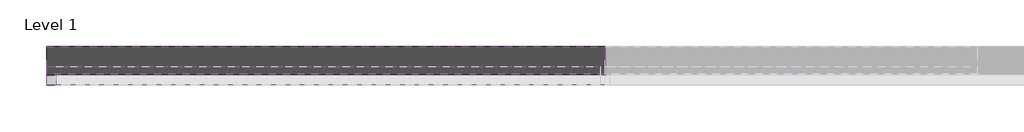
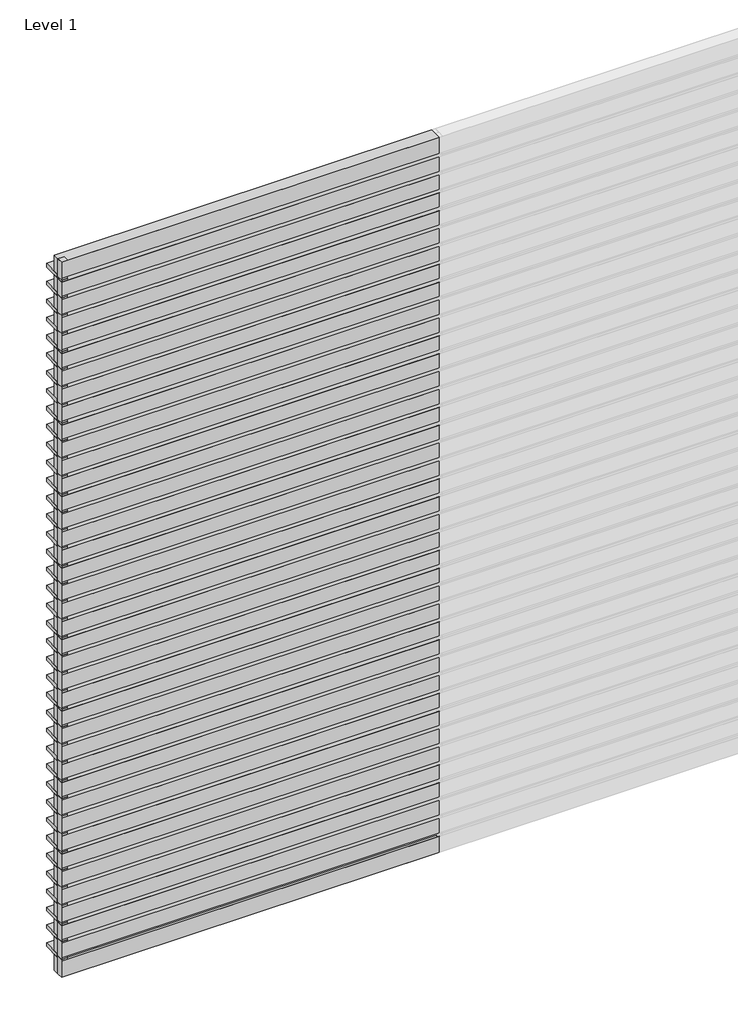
# One storey, part 1 of 3: 79 members, 41 plates.
"""IFC4 building model written with IfcOpenShell, lengths in millimetres."""

from ifc_helpers import new_model, si_unit, origin, place, context, project, spatial, transform, mapped, element, save
from components import rectangular_mullion_4e9be6f4, rectangular_mullion_6265e8b1, empty_system_panel_empty_50652f15, empty_system_panel_empty_6fa24678, empty_system_panel_empty_149e9d60

model = new_model("IFC4")

# Units and contexts
model_context = context("Model", 3, world=origin())
ifc_project = project(units=[si_unit("LENGTHUNIT", "METRE", prefix="MILLI")], contexts=[model_context])

# Site, building, storey
site = spatial("IfcSite", under=ifc_project)
building = spatial("IfcBuilding", under=site)
storey = spatial("IfcBuildingStorey", under=building, Name="Level 1", Elevation=0.0)

# Members
placement = place(None, origin())
rectangular_mullion_shape = rectangular_mullion_4e9be6f4(model_context)
element("IfcMember", 1, ObjectType="Rectangular Mullion : RSen_21_CWM_blade - cubic 150 - 0°_gen_duco projects", at=placement, inside=storey, context=model_context, shape_type="MappedRepresentation", body=[
    mapped(rectangular_mullion_shape, transform((0.0, 3000.0, 150.0), x_axis=(0.0, 0.0, 1.0), y_axis=(0.0, 1.0, 0.0), z_axis=(-1.0, 0.0, 0.0))),
])
element("IfcMember", 2, ObjectType="Rectangular Mullion : RSen_21_CWM_blade - cubic 150 - 0°_gen_duco projects", at=placement, inside=storey, context=model_context, shape_type="MappedRepresentation", body=[
    mapped(rectangular_mullion_shape, transform((0.0, 3000.0, 300.0), x_axis=(0.0, 0.0, 1.0), y_axis=(0.0, 1.0, 0.0), z_axis=(-1.0, 0.0, 0.0))),
])
element("IfcMember", 3, ObjectType="Rectangular Mullion : RSen_21_CWM_blade - cubic 150 - 0°_gen_duco projects", at=placement, inside=storey, context=model_context, shape_type="MappedRepresentation", body=[
    mapped(rectangular_mullion_shape, transform((0.0, 3000.0, 450.0), x_axis=(0.0, 0.0, 1.0), y_axis=(0.0, 1.0, 0.0), z_axis=(-1.0, 0.0, 0.0))),
])
element("IfcMember", 4, ObjectType="Rectangular Mullion : RSen_21_CWM_blade - cubic 150 - 0°_gen_duco projects", at=placement, inside=storey, context=model_context, shape_type="MappedRepresentation", body=[
    mapped(rectangular_mullion_shape, transform((0.0, 3000.0, 600.0), x_axis=(0.0, 0.0, 1.0), y_axis=(0.0, 1.0, 0.0), z_axis=(-1.0, 0.0, 0.0))),
])
element("IfcMember", 5, ObjectType="Rectangular Mullion : RSen_21_CWM_blade - cubic 150 - 0°_gen_duco projects", at=placement, inside=storey, context=model_context, shape_type="MappedRepresentation", body=[
    mapped(rectangular_mullion_shape, transform((0.0, 3000.0, 750.0), x_axis=(0.0, 0.0, 1.0), y_axis=(0.0, 1.0, 0.0), z_axis=(-1.0, 0.0, 0.0))),
])
element("IfcMember", 6, ObjectType="Rectangular Mullion : RSen_21_CWM_blade - cubic 150 - 0°_gen_duco projects", at=placement, inside=storey, context=model_context, shape_type="MappedRepresentation", body=[
    mapped(rectangular_mullion_shape, transform((0.0, 3000.0, 900.0), x_axis=(0.0, 0.0, 1.0), y_axis=(0.0, 1.0, 0.0), z_axis=(-1.0, 0.0, 0.0))),
])
element("IfcMember", 7, ObjectType="Rectangular Mullion : RSen_21_CWM_blade - cubic 150 - 0°_gen_duco projects", at=placement, inside=storey, context=model_context, shape_type="MappedRepresentation", body=[
    mapped(rectangular_mullion_shape, transform((0.0, 3000.0, 1050.0), x_axis=(0.0, 0.0, 1.0), y_axis=(0.0, 1.0, 0.0), z_axis=(-1.0, 0.0, 0.0))),
])
element("IfcMember", 8, ObjectType="Rectangular Mullion : RSen_21_CWM_blade - cubic 150 - 0°_gen_duco projects", at=placement, inside=storey, context=model_context, shape_type="MappedRepresentation", body=[
    mapped(rectangular_mullion_shape, transform((0.0, 3000.0, 1200.0), x_axis=(0.0, 0.0, 1.0), y_axis=(0.0, 1.0, 0.0), z_axis=(-1.0, 0.0, 0.0))),
])
element("IfcMember", 9, ObjectType="Rectangular Mullion : RSen_21_CWM_blade - cubic 150 - 0°_gen_duco projects", at=placement, inside=storey, context=model_context, shape_type="MappedRepresentation", body=[
    mapped(rectangular_mullion_shape, transform((0.0, 3000.0, 1350.0), x_axis=(0.0, 0.0, 1.0), y_axis=(0.0, 1.0, 0.0), z_axis=(-1.0, 0.0, 0.0))),
])
element("IfcMember", 10, ObjectType="Rectangular Mullion : RSen_21_CWM_blade - cubic 150 - 0°_gen_duco projects", at=placement, inside=storey, context=model_context, shape_type="MappedRepresentation", body=[
    mapped(rectangular_mullion_shape, transform((0.0, 3000.0, 1500.0), x_axis=(0.0, 0.0, 1.0), y_axis=(0.0, 1.0, 0.0), z_axis=(-1.0, 0.0, 0.0))),
])
element("IfcMember", 11, ObjectType="Rectangular Mullion : RSen_21_CWM_blade - cubic 150 - 0°_gen_duco projects", at=placement, inside=storey, context=model_context, shape_type="MappedRepresentation", body=[
    mapped(rectangular_mullion_shape, transform((0.0, 3000.0, 1650.0), x_axis=(0.0, 0.0, 1.0), y_axis=(0.0, 1.0, 0.0), z_axis=(-1.0, 0.0, 0.0))),
])
element("IfcMember", 12, ObjectType="Rectangular Mullion : RSen_21_CWM_blade - cubic 150 - 0°_gen_duco projects", at=placement, inside=storey, context=model_context, shape_type="MappedRepresentation", body=[
    mapped(rectangular_mullion_shape, transform((0.0, 3000.0, 1800.0), x_axis=(0.0, 0.0, 1.0), y_axis=(0.0, 1.0, 0.0), z_axis=(-1.0, 0.0, 0.0))),
])
element("IfcMember", 13, ObjectType="Rectangular Mullion : RSen_21_CWM_blade - cubic 150 - 0°_gen_duco projects", at=placement, inside=storey, context=model_context, shape_type="MappedRepresentation", body=[
    mapped(rectangular_mullion_shape, transform((0.0, 3000.0, 1950.0), x_axis=(0.0, 0.0, 1.0), y_axis=(0.0, 1.0, 0.0), z_axis=(-1.0, 0.0, 0.0))),
])
element("IfcMember", 14, ObjectType="Rectangular Mullion : RSen_21_CWM_blade - cubic 150 - 0°_gen_duco projects", at=placement, inside=storey, context=model_context, shape_type="MappedRepresentation", body=[
    mapped(rectangular_mullion_shape, transform((0.0, 3000.0, 2100.0), x_axis=(0.0, 0.0, 1.0), y_axis=(0.0, 1.0, 0.0), z_axis=(-1.0, 0.0, 0.0))),
])
element("IfcMember", 15, ObjectType="Rectangular Mullion : RSen_21_CWM_blade - cubic 150 - 0°_gen_duco projects", at=placement, inside=storey, context=model_context, shape_type="MappedRepresentation", body=[
    mapped(rectangular_mullion_shape, transform((0.0, 3000.0, 2250.0), x_axis=(0.0, 0.0, 1.0), y_axis=(0.0, 1.0, 0.0), z_axis=(-1.0, 0.0, 0.0))),
])
element("IfcMember", 16, ObjectType="Rectangular Mullion : RSen_21_CWM_blade - cubic 150 - 0°_gen_duco projects", at=placement, inside=storey, context=model_context, shape_type="MappedRepresentation", body=[
    mapped(rectangular_mullion_shape, transform((0.0, 3000.0, 2400.0), x_axis=(0.0, 0.0, 1.0), y_axis=(0.0, 1.0, 0.0), z_axis=(-1.0, 0.0, 0.0))),
])
element("IfcMember", 17, ObjectType="Rectangular Mullion : RSen_21_CWM_blade - cubic 150 - 0°_gen_duco projects", at=placement, inside=storey, context=model_context, shape_type="MappedRepresentation", body=[
    mapped(rectangular_mullion_shape, transform((0.0, 3000.0, 2550.0), x_axis=(0.0, 0.0, 1.0), y_axis=(0.0, 1.0, 0.0), z_axis=(-1.0, 0.0, 0.0))),
])
element("IfcMember", 18, ObjectType="Rectangular Mullion : RSen_21_CWM_blade - cubic 150 - 0°_gen_duco projects", at=placement, inside=storey, context=model_context, shape_type="MappedRepresentation", body=[
    mapped(rectangular_mullion_shape, transform((0.0, 3000.0, 2700.0), x_axis=(0.0, 0.0, 1.0), y_axis=(0.0, 1.0, 0.0), z_axis=(-1.0, 0.0, 0.0))),
])
element("IfcMember", 19, ObjectType="Rectangular Mullion : RSen_21_CWM_blade - cubic 150 - 0°_gen_duco projects", at=placement, inside=storey, context=model_context, shape_type="MappedRepresentation", body=[
    mapped(rectangular_mullion_shape, transform((0.0, 3000.0, 2850.0), x_axis=(0.0, 0.0, 1.0), y_axis=(0.0, 1.0, 0.0), z_axis=(-1.0, 0.0, 0.0))),
])
element("IfcMember", 20, ObjectType="Rectangular Mullion : RSen_21_CWM_blade - cubic 150 - 0°_gen_duco projects", at=placement, inside=storey, context=model_context, shape_type="MappedRepresentation", body=[
    mapped(rectangular_mullion_shape, transform((0.0, 3000.0, 3000.0), x_axis=(0.0, 0.0, 1.0), y_axis=(0.0, 1.0, 0.0), z_axis=(-1.0, 0.0, 0.0))),
])
element("IfcMember", 21, ObjectType="Rectangular Mullion : RSen_21_CWM_blade - cubic 150 - 0°_gen_duco projects", at=placement, inside=storey, context=model_context, shape_type="MappedRepresentation", body=[
    mapped(rectangular_mullion_shape, transform((0.0, 3000.0, 3150.0), x_axis=(0.0, 0.0, 1.0), y_axis=(0.0, 1.0, 0.0), z_axis=(-1.0, 0.0, 0.0))),
])
element("IfcMember", 22, ObjectType="Rectangular Mullion : RSen_21_CWM_blade - cubic 150 - 0°_gen_duco projects", at=placement, inside=storey, context=model_context, shape_type="MappedRepresentation", body=[
    mapped(rectangular_mullion_shape, transform((0.0, 3000.0, 3300.0), x_axis=(0.0, 0.0, 1.0), y_axis=(0.0, 1.0, 0.0), z_axis=(-1.0, 0.0, 0.0))),
])
element("IfcMember", 23, ObjectType="Rectangular Mullion : RSen_21_CWM_blade - cubic 150 - 0°_gen_duco projects", at=placement, inside=storey, context=model_context, shape_type="MappedRepresentation", body=[
    mapped(rectangular_mullion_shape, transform((0.0, 3000.0, 3450.0), x_axis=(0.0, 0.0, 1.0), y_axis=(0.0, 1.0, 0.0), z_axis=(-1.0, 0.0, 0.0))),
])
element("IfcMember", 24, ObjectType="Rectangular Mullion : RSen_21_CWM_blade - cubic 150 - 0°_gen_duco projects", at=placement, inside=storey, context=model_context, shape_type="MappedRepresentation", body=[
    mapped(rectangular_mullion_shape, transform((0.0, 3000.0, 3600.0), x_axis=(0.0, 0.0, 1.0), y_axis=(0.0, 1.0, 0.0), z_axis=(-1.0, 0.0, 0.0))),
])
element("IfcMember", 25, ObjectType="Rectangular Mullion : RSen_21_CWM_blade - cubic 150 - 0°_gen_duco projects", at=placement, inside=storey, context=model_context, shape_type="MappedRepresentation", body=[
    mapped(rectangular_mullion_shape, transform((0.0, 3000.0, 3750.0), x_axis=(0.0, 0.0, 1.0), y_axis=(0.0, 1.0, 0.0), z_axis=(-1.0, 0.0, 0.0))),
])
element("IfcMember", 26, ObjectType="Rectangular Mullion : RSen_21_CWM_blade - cubic 150 - 0°_gen_duco projects", at=placement, inside=storey, context=model_context, shape_type="MappedRepresentation", body=[
    mapped(rectangular_mullion_shape, transform((0.0, 3000.0, 3900.0), x_axis=(0.0, 0.0, 1.0), y_axis=(0.0, 1.0, 0.0), z_axis=(-1.0, 0.0, 0.0))),
])
element("IfcMember", 27, ObjectType="Rectangular Mullion : RSen_21_CWM_blade - cubic 150 - 0°_gen_duco projects", at=placement, inside=storey, context=model_context, shape_type="MappedRepresentation", body=[
    mapped(rectangular_mullion_shape, transform((0.0, 3000.0, 4050.0), x_axis=(0.0, 0.0, 1.0), y_axis=(0.0, 1.0, 0.0), z_axis=(-1.0, 0.0, 0.0))),
])
element("IfcMember", 28, ObjectType="Rectangular Mullion : RSen_21_CWM_blade - cubic 150 - 0°_gen_duco projects", at=placement, inside=storey, context=model_context, shape_type="MappedRepresentation", body=[
    mapped(rectangular_mullion_shape, transform((0.0, 3000.0, 4200.0), x_axis=(0.0, 0.0, 1.0), y_axis=(0.0, 1.0, 0.0), z_axis=(-1.0, 0.0, 0.0))),
])
element("IfcMember", 29, ObjectType="Rectangular Mullion : RSen_21_CWM_blade - cubic 150 - 0°_gen_duco projects", at=placement, inside=storey, context=model_context, shape_type="MappedRepresentation", body=[
    mapped(rectangular_mullion_shape, transform((0.0, 3000.0, 4350.0), x_axis=(0.0, 0.0, 1.0), y_axis=(0.0, 1.0, 0.0), z_axis=(-1.0, 0.0, 0.0))),
])
element("IfcMember", 30, ObjectType="Rectangular Mullion : RSen_21_CWM_blade - cubic 150 - 0°_gen_duco projects", at=placement, inside=storey, context=model_context, shape_type="MappedRepresentation", body=[
    mapped(rectangular_mullion_shape, transform((0.0, 3000.0, 4500.0), x_axis=(0.0, 0.0, 1.0), y_axis=(0.0, 1.0, 0.0), z_axis=(-1.0, 0.0, 0.0))),
])
element("IfcMember", 31, ObjectType="Rectangular Mullion : RSen_21_CWM_blade - cubic 150 - 0°_gen_duco projects", at=placement, inside=storey, context=model_context, shape_type="MappedRepresentation", body=[
    mapped(rectangular_mullion_shape, transform((0.0, 3000.0, 4650.0), x_axis=(0.0, 0.0, 1.0), y_axis=(0.0, 1.0, 0.0), z_axis=(-1.0, 0.0, 0.0))),
])
element("IfcMember", 32, ObjectType="Rectangular Mullion : RSen_21_CWM_blade - cubic 150 - 0°_gen_duco projects", at=placement, inside=storey, context=model_context, shape_type="MappedRepresentation", body=[
    mapped(rectangular_mullion_shape, transform((0.0, 3000.0, 4800.0), x_axis=(0.0, 0.0, 1.0), y_axis=(0.0, 1.0, 0.0), z_axis=(-1.0, 0.0, 0.0))),
])
element("IfcMember", 33, ObjectType="Rectangular Mullion : RSen_21_CWM_blade - cubic 150 - 0°_gen_duco projects", at=placement, inside=storey, context=model_context, shape_type="MappedRepresentation", body=[
    mapped(rectangular_mullion_shape, transform((0.0, 3000.0, 4950.0), x_axis=(0.0, 0.0, 1.0), y_axis=(0.0, 1.0, 0.0), z_axis=(-1.0, 0.0, 0.0))),
])
element("IfcMember", 34, ObjectType="Rectangular Mullion : RSen_21_CWM_blade - cubic 150 - 0°_gen_duco projects", at=placement, inside=storey, context=model_context, shape_type="MappedRepresentation", body=[
    mapped(rectangular_mullion_shape, transform((0.0, 3000.0, 5100.0), x_axis=(0.0, 0.0, 1.0), y_axis=(0.0, 1.0, 0.0), z_axis=(-1.0, 0.0, 0.0))),
])
element("IfcMember", 35, ObjectType="Rectangular Mullion : RSen_21_CWM_blade - cubic 150 - 0°_gen_duco projects", at=placement, inside=storey, context=model_context, shape_type="MappedRepresentation", body=[
    mapped(rectangular_mullion_shape, transform((0.0, 3000.0, 5250.0), x_axis=(0.0, 0.0, 1.0), y_axis=(0.0, 1.0, 0.0), z_axis=(-1.0, 0.0, 0.0))),
])
element("IfcMember", 36, ObjectType="Rectangular Mullion : RSen_21_CWM_blade - cubic 150 - 0°_gen_duco projects", at=placement, inside=storey, context=model_context, shape_type="MappedRepresentation", body=[
    mapped(rectangular_mullion_shape, transform((0.0, 3000.0, 5400.0), x_axis=(0.0, 0.0, 1.0), y_axis=(0.0, 1.0, 0.0), z_axis=(-1.0, 0.0, 0.0))),
])
element("IfcMember", 37, ObjectType="Rectangular Mullion : RSen_21_CWM_blade - cubic 150 - 0°_gen_duco projects", at=placement, inside=storey, context=model_context, shape_type="MappedRepresentation", body=[
    mapped(rectangular_mullion_shape, transform((0.0, 3000.0, 5550.0), x_axis=(0.0, 0.0, 1.0), y_axis=(0.0, 1.0, 0.0), z_axis=(-1.0, 0.0, 0.0))),
])
element("IfcMember", 38, ObjectType="Rectangular Mullion : RSen_21_CWM_blade - cubic 150 - 0°_gen_duco projects", at=placement, inside=storey, context=model_context, shape_type="MappedRepresentation", body=[
    mapped(rectangular_mullion_shape, transform((0.0, 3000.0, 5700.0), x_axis=(0.0, 0.0, 1.0), y_axis=(0.0, 1.0, 0.0), z_axis=(-1.0, 0.0, 0.0))),
])
element("IfcMember", 39, ObjectType="Rectangular Mullion : RSen_21_CWM_blade - cubic 150 - 0°_gen_duco projects", at=placement, inside=storey, context=model_context, shape_type="MappedRepresentation", body=[
    mapped(rectangular_mullion_shape, transform((0.0, 3000.0, 5850.0), x_axis=(0.0, 0.0, 1.0), y_axis=(0.0, 1.0, 0.0), z_axis=(-1.0, 0.0, 0.0))),
])
rectangular_mullion_2_shape = rectangular_mullion_6265e8b1(model_context)
element("IfcMember", 40, ObjectType="Rectangular Mullion : RSen_21_CWM_support profile 50x50 - left_gen_duco projects", at=placement, inside=storey, context=model_context, shape_type="MappedRepresentation", body=[
    mapped(rectangular_mullion_2_shape, transform((0.0, 3000.0, 0.0), x_axis=(-1.0, 0.0, 0.0), y_axis=(0.0, 1.0, 0.0), z_axis=(0.0, 0.0, -1.0))),
])
element("IfcMember", 41, ObjectType="Rectangular Mullion : RSen_21_CWM_support profile 50x50 - left_gen_duco projects", at=placement, inside=storey, context=model_context, shape_type="MappedRepresentation", body=[
    mapped(rectangular_mullion_2_shape, transform((0.0, 3000.0, 150.0), x_axis=(-1.0, 0.0, 0.0), y_axis=(0.0, 1.0, 0.0), z_axis=(0.0, 0.0, -1.0))),
])
element("IfcMember", 42, ObjectType="Rectangular Mullion : RSen_21_CWM_support profile 50x50 - left_gen_duco projects", at=placement, inside=storey, context=model_context, shape_type="MappedRepresentation", body=[
    mapped(rectangular_mullion_2_shape, transform((0.0, 3000.0, 300.0), x_axis=(-1.0, 0.0, 0.0), y_axis=(0.0, 1.0, 0.0), z_axis=(0.0, 0.0, -1.0))),
])
element("IfcMember", 43, ObjectType="Rectangular Mullion : RSen_21_CWM_support profile 50x50 - left_gen_duco projects", at=placement, inside=storey, context=model_context, shape_type="MappedRepresentation", body=[
    mapped(rectangular_mullion_2_shape, transform((0.0, 3000.0, 450.0), x_axis=(-1.0, 0.0, 0.0), y_axis=(0.0, 1.0, 0.0), z_axis=(0.0, 0.0, -1.0))),
])
element("IfcMember", 44, ObjectType="Rectangular Mullion : RSen_21_CWM_support profile 50x50 - left_gen_duco projects", at=placement, inside=storey, context=model_context, shape_type="MappedRepresentation", body=[
    mapped(rectangular_mullion_2_shape, transform((0.0, 3000.0, 600.0), x_axis=(-1.0, 0.0, 0.0), y_axis=(0.0, 1.0, 0.0), z_axis=(0.0, 0.0, -1.0))),
])
element("IfcMember", 45, ObjectType="Rectangular Mullion : RSen_21_CWM_support profile 50x50 - left_gen_duco projects", at=placement, inside=storey, context=model_context, shape_type="MappedRepresentation", body=[
    mapped(rectangular_mullion_2_shape, transform((0.0, 3000.0, 750.0), x_axis=(-1.0, 0.0, 0.0), y_axis=(0.0, 1.0, 0.0), z_axis=(0.0, 0.0, -1.0))),
])
element("IfcMember", 46, ObjectType="Rectangular Mullion : RSen_21_CWM_support profile 50x50 - left_gen_duco projects", at=placement, inside=storey, context=model_context, shape_type="MappedRepresentation", body=[
    mapped(rectangular_mullion_2_shape, transform((0.0, 3000.0, 900.0), x_axis=(-1.0, 0.0, 0.0), y_axis=(0.0, 1.0, 0.0), z_axis=(0.0, 0.0, -1.0))),
])
element("IfcMember", 47, ObjectType="Rectangular Mullion : RSen_21_CWM_support profile 50x50 - left_gen_duco projects", at=placement, inside=storey, context=model_context, shape_type="MappedRepresentation", body=[
    mapped(rectangular_mullion_2_shape, transform((0.0, 3000.0, 1050.0), x_axis=(-1.0, 0.0, 0.0), y_axis=(0.0, 1.0, 0.0), z_axis=(0.0, 0.0, -1.0))),
])
element("IfcMember", 48, ObjectType="Rectangular Mullion : RSen_21_CWM_support profile 50x50 - left_gen_duco projects", at=placement, inside=storey, context=model_context, shape_type="MappedRepresentation", body=[
    mapped(rectangular_mullion_2_shape, transform((0.0, 3000.0, 1200.0), x_axis=(-1.0, 0.0, 0.0), y_axis=(0.0, 1.0, 0.0), z_axis=(0.0, 0.0, -1.0))),
])
element("IfcMember", 49, ObjectType="Rectangular Mullion : RSen_21_CWM_support profile 50x50 - left_gen_duco projects", at=placement, inside=storey, context=model_context, shape_type="MappedRepresentation", body=[
    mapped(rectangular_mullion_2_shape, transform((0.0, 3000.0, 1350.0), x_axis=(-1.0, 0.0, 0.0), y_axis=(0.0, 1.0, 0.0), z_axis=(0.0, 0.0, -1.0))),
])
element("IfcMember", 50, ObjectType="Rectangular Mullion : RSen_21_CWM_support profile 50x50 - left_gen_duco projects", at=placement, inside=storey, context=model_context, shape_type="MappedRepresentation", body=[
    mapped(rectangular_mullion_2_shape, transform((0.0, 3000.0, 1500.0), x_axis=(-1.0, 0.0, 0.0), y_axis=(0.0, 1.0, 0.0), z_axis=(0.0, 0.0, -1.0))),
])
element("IfcMember", 51, ObjectType="Rectangular Mullion : RSen_21_CWM_support profile 50x50 - left_gen_duco projects", at=placement, inside=storey, context=model_context, shape_type="MappedRepresentation", body=[
    mapped(rectangular_mullion_2_shape, transform((0.0, 3000.0, 1650.0), x_axis=(-1.0, 0.0, 0.0), y_axis=(0.0, 1.0, 0.0), z_axis=(0.0, 0.0, -1.0))),
])
element("IfcMember", 52, ObjectType="Rectangular Mullion : RSen_21_CWM_support profile 50x50 - left_gen_duco projects", at=placement, inside=storey, context=model_context, shape_type="MappedRepresentation", body=[
    mapped(rectangular_mullion_2_shape, transform((0.0, 3000.0, 1800.0), x_axis=(-1.0, 0.0, 0.0), y_axis=(0.0, 1.0, 0.0), z_axis=(0.0, 0.0, -1.0))),
])
element("IfcMember", 53, ObjectType="Rectangular Mullion : RSen_21_CWM_support profile 50x50 - left_gen_duco projects", at=placement, inside=storey, context=model_context, shape_type="MappedRepresentation", body=[
    mapped(rectangular_mullion_2_shape, transform((0.0, 3000.0, 1950.0), x_axis=(-1.0, 0.0, 0.0), y_axis=(0.0, 1.0, 0.0), z_axis=(0.0, 0.0, -1.0))),
])
element("IfcMember", 54, ObjectType="Rectangular Mullion : RSen_21_CWM_support profile 50x50 - left_gen_duco projects", at=placement, inside=storey, context=model_context, shape_type="MappedRepresentation", body=[
    mapped(rectangular_mullion_2_shape, transform((0.0, 3000.0, 2100.0), x_axis=(-1.0, 0.0, 0.0), y_axis=(0.0, 1.0, 0.0), z_axis=(0.0, 0.0, -1.0))),
])
element("IfcMember", 55, ObjectType="Rectangular Mullion : RSen_21_CWM_support profile 50x50 - left_gen_duco projects", at=placement, inside=storey, context=model_context, shape_type="MappedRepresentation", body=[
    mapped(rectangular_mullion_2_shape, transform((0.0, 3000.0, 2250.0), x_axis=(-1.0, 0.0, 0.0), y_axis=(0.0, 1.0, 0.0), z_axis=(0.0, 0.0, -1.0))),
])
element("IfcMember", 56, ObjectType="Rectangular Mullion : RSen_21_CWM_support profile 50x50 - left_gen_duco projects", at=placement, inside=storey, context=model_context, shape_type="MappedRepresentation", body=[
    mapped(rectangular_mullion_2_shape, transform((0.0, 3000.0, 2400.0), x_axis=(-1.0, 0.0, 0.0), y_axis=(0.0, 1.0, 0.0), z_axis=(0.0, 0.0, -1.0))),
])
element("IfcMember", 57, ObjectType="Rectangular Mullion : RSen_21_CWM_support profile 50x50 - left_gen_duco projects", at=placement, inside=storey, context=model_context, shape_type="MappedRepresentation", body=[
    mapped(rectangular_mullion_2_shape, transform((0.0, 3000.0, 2550.0), x_axis=(-1.0, 0.0, 0.0), y_axis=(0.0, 1.0, 0.0), z_axis=(0.0, 0.0, -1.0))),
])
element("IfcMember", 58, ObjectType="Rectangular Mullion : RSen_21_CWM_support profile 50x50 - left_gen_duco projects", at=placement, inside=storey, context=model_context, shape_type="MappedRepresentation", body=[
    mapped(rectangular_mullion_2_shape, transform((0.0, 3000.0, 2700.0), x_axis=(-1.0, 0.0, 0.0), y_axis=(0.0, 1.0, 0.0), z_axis=(0.0, 0.0, -1.0))),
])
element("IfcMember", 59, ObjectType="Rectangular Mullion : RSen_21_CWM_support profile 50x50 - left_gen_duco projects", at=placement, inside=storey, context=model_context, shape_type="MappedRepresentation", body=[
    mapped(rectangular_mullion_2_shape, transform((0.0, 3000.0, 2850.0), x_axis=(-1.0, 0.0, 0.0), y_axis=(0.0, 1.0, 0.0), z_axis=(0.0, 0.0, -1.0))),
])
element("IfcMember", 60, ObjectType="Rectangular Mullion : RSen_21_CWM_support profile 50x50 - left_gen_duco projects", at=placement, inside=storey, context=model_context, shape_type="MappedRepresentation", body=[
    mapped(rectangular_mullion_2_shape, transform((0.0, 3000.0, 3000.0), x_axis=(-1.0, 0.0, 0.0), y_axis=(0.0, 1.0, 0.0), z_axis=(0.0, 0.0, -1.0))),
])
element("IfcMember", 61, ObjectType="Rectangular Mullion : RSen_21_CWM_support profile 50x50 - left_gen_duco projects", at=placement, inside=storey, context=model_context, shape_type="MappedRepresentation", body=[
    mapped(rectangular_mullion_2_shape, transform((0.0, 3000.0, 3150.0), x_axis=(-1.0, 0.0, 0.0), y_axis=(0.0, 1.0, 0.0), z_axis=(0.0, 0.0, -1.0))),
])
element("IfcMember", 62, ObjectType="Rectangular Mullion : RSen_21_CWM_support profile 50x50 - left_gen_duco projects", at=placement, inside=storey, context=model_context, shape_type="MappedRepresentation", body=[
    mapped(rectangular_mullion_2_shape, transform((0.0, 3000.0, 3300.0), x_axis=(-1.0, 0.0, 0.0), y_axis=(0.0, 1.0, 0.0), z_axis=(0.0, 0.0, -1.0))),
])
element("IfcMember", 63, ObjectType="Rectangular Mullion : RSen_21_CWM_support profile 50x50 - left_gen_duco projects", at=placement, inside=storey, context=model_context, shape_type="MappedRepresentation", body=[
    mapped(rectangular_mullion_2_shape, transform((0.0, 3000.0, 3450.0), x_axis=(-1.0, 0.0, 0.0), y_axis=(0.0, 1.0, 0.0), z_axis=(0.0, 0.0, -1.0))),
])
element("IfcMember", 64, ObjectType="Rectangular Mullion : RSen_21_CWM_support profile 50x50 - left_gen_duco projects", at=placement, inside=storey, context=model_context, shape_type="MappedRepresentation", body=[
    mapped(rectangular_mullion_2_shape, transform((0.0, 3000.0, 3600.0), x_axis=(-1.0, 0.0, 0.0), y_axis=(0.0, 1.0, 0.0), z_axis=(0.0, 0.0, -1.0))),
])
element("IfcMember", 65, ObjectType="Rectangular Mullion : RSen_21_CWM_support profile 50x50 - left_gen_duco projects", at=placement, inside=storey, context=model_context, shape_type="MappedRepresentation", body=[
    mapped(rectangular_mullion_2_shape, transform((0.0, 3000.0, 3750.0), x_axis=(-1.0, 0.0, 0.0), y_axis=(0.0, 1.0, 0.0), z_axis=(0.0, 0.0, -1.0))),
])
element("IfcMember", 66, ObjectType="Rectangular Mullion : RSen_21_CWM_support profile 50x50 - left_gen_duco projects", at=placement, inside=storey, context=model_context, shape_type="MappedRepresentation", body=[
    mapped(rectangular_mullion_2_shape, transform((0.0, 3000.0, 3900.0), x_axis=(-1.0, 0.0, 0.0), y_axis=(0.0, 1.0, 0.0), z_axis=(0.0, 0.0, -1.0))),
])
element("IfcMember", 67, ObjectType="Rectangular Mullion : RSen_21_CWM_support profile 50x50 - left_gen_duco projects", at=placement, inside=storey, context=model_context, shape_type="MappedRepresentation", body=[
    mapped(rectangular_mullion_2_shape, transform((0.0, 3000.0, 4050.0), x_axis=(-1.0, 0.0, 0.0), y_axis=(0.0, 1.0, 0.0), z_axis=(0.0, 0.0, -1.0))),
])
element("IfcMember", 68, ObjectType="Rectangular Mullion : RSen_21_CWM_support profile 50x50 - left_gen_duco projects", at=placement, inside=storey, context=model_context, shape_type="MappedRepresentation", body=[
    mapped(rectangular_mullion_2_shape, transform((0.0, 3000.0, 4200.0), x_axis=(-1.0, 0.0, 0.0), y_axis=(0.0, 1.0, 0.0), z_axis=(0.0, 0.0, -1.0))),
])
element("IfcMember", 69, ObjectType="Rectangular Mullion : RSen_21_CWM_support profile 50x50 - left_gen_duco projects", at=placement, inside=storey, context=model_context, shape_type="MappedRepresentation", body=[
    mapped(rectangular_mullion_2_shape, transform((0.0, 3000.0, 4350.0), x_axis=(-1.0, 0.0, 0.0), y_axis=(0.0, 1.0, 0.0), z_axis=(0.0, 0.0, -1.0))),
])
element("IfcMember", 70, ObjectType="Rectangular Mullion : RSen_21_CWM_support profile 50x50 - left_gen_duco projects", at=placement, inside=storey, context=model_context, shape_type="MappedRepresentation", body=[
    mapped(rectangular_mullion_2_shape, transform((0.0, 3000.0, 4500.0), x_axis=(-1.0, 0.0, 0.0), y_axis=(0.0, 1.0, 0.0), z_axis=(0.0, 0.0, -1.0))),
])
element("IfcMember", 71, ObjectType="Rectangular Mullion : RSen_21_CWM_support profile 50x50 - left_gen_duco projects", at=placement, inside=storey, context=model_context, shape_type="MappedRepresentation", body=[
    mapped(rectangular_mullion_2_shape, transform((0.0, 3000.0, 4650.0), x_axis=(-1.0, 0.0, 0.0), y_axis=(0.0, 1.0, 0.0), z_axis=(0.0, 0.0, -1.0))),
])
element("IfcMember", 72, ObjectType="Rectangular Mullion : RSen_21_CWM_support profile 50x50 - left_gen_duco projects", at=placement, inside=storey, context=model_context, shape_type="MappedRepresentation", body=[
    mapped(rectangular_mullion_2_shape, transform((0.0, 3000.0, 4800.0), x_axis=(-1.0, 0.0, 0.0), y_axis=(0.0, 1.0, 0.0), z_axis=(0.0, 0.0, -1.0))),
])
element("IfcMember", 73, ObjectType="Rectangular Mullion : RSen_21_CWM_support profile 50x50 - left_gen_duco projects", at=placement, inside=storey, context=model_context, shape_type="MappedRepresentation", body=[
    mapped(rectangular_mullion_2_shape, transform((0.0, 3000.0, 4950.0), x_axis=(-1.0, 0.0, 0.0), y_axis=(0.0, 1.0, 0.0), z_axis=(0.0, 0.0, -1.0))),
])
element("IfcMember", 74, ObjectType="Rectangular Mullion : RSen_21_CWM_support profile 50x50 - left_gen_duco projects", at=placement, inside=storey, context=model_context, shape_type="MappedRepresentation", body=[
    mapped(rectangular_mullion_2_shape, transform((0.0, 3000.0, 5100.0), x_axis=(-1.0, 0.0, 0.0), y_axis=(0.0, 1.0, 0.0), z_axis=(0.0, 0.0, -1.0))),
])
element("IfcMember", 75, ObjectType="Rectangular Mullion : RSen_21_CWM_support profile 50x50 - left_gen_duco projects", at=placement, inside=storey, context=model_context, shape_type="MappedRepresentation", body=[
    mapped(rectangular_mullion_2_shape, transform((0.0, 3000.0, 5250.0), x_axis=(-1.0, 0.0, 0.0), y_axis=(0.0, 1.0, 0.0), z_axis=(0.0, 0.0, -1.0))),
])
element("IfcMember", 76, ObjectType="Rectangular Mullion : RSen_21_CWM_support profile 50x50 - left_gen_duco projects", at=placement, inside=storey, context=model_context, shape_type="MappedRepresentation", body=[
    mapped(rectangular_mullion_2_shape, transform((0.0, 3000.0, 5400.0), x_axis=(-1.0, 0.0, 0.0), y_axis=(0.0, 1.0, 0.0), z_axis=(0.0, 0.0, -1.0))),
])
element("IfcMember", 77, ObjectType="Rectangular Mullion : RSen_21_CWM_support profile 50x50 - left_gen_duco projects", at=placement, inside=storey, context=model_context, shape_type="MappedRepresentation", body=[
    mapped(rectangular_mullion_2_shape, transform((0.0, 3000.0, 5550.0), x_axis=(-1.0, 0.0, 0.0), y_axis=(0.0, 1.0, 0.0), z_axis=(0.0, 0.0, -1.0))),
])
element("IfcMember", 78, ObjectType="Rectangular Mullion : RSen_21_CWM_support profile 50x50 - left_gen_duco projects", at=placement, inside=storey, context=model_context, shape_type="MappedRepresentation", body=[
    mapped(rectangular_mullion_2_shape, transform((0.0, 3000.0, 5700.0), x_axis=(-1.0, 0.0, 0.0), y_axis=(0.0, 1.0, 0.0), z_axis=(0.0, 0.0, -1.0))),
])
element("IfcMember", 79, ObjectType="Rectangular Mullion : RSen_21_CWM_support profile 50x50 - left_gen_duco projects", at=placement, inside=storey, context=model_context, shape_type="MappedRepresentation", body=[
    mapped(rectangular_mullion_2_shape, transform((0.0, 3000.0, 5850.0), x_axis=(-1.0, 0.0, 0.0), y_axis=(0.0, 1.0, 0.0), z_axis=(0.0, 0.0, -1.0))),
])

# Plates
empty_system_panel_empty_shape = empty_system_panel_empty_50652f15(model_context)
element("IfcPlate", 80, ObjectType="Empty System Panel : Empty", at=placement, inside=storey, context=model_context, shape_type="MappedRepresentation", body=[
    mapped(empty_system_panel_empty_shape, transform((1500.0, 3000.0, 0.0), x_axis=(-1.0, 0.0, 0.0), y_axis=(0.0, -1.0, 0.0), z_axis=(0.0, 0.0, 1.0))),
])
element("IfcPlate", 81, ObjectType="Empty System Panel : Empty", at=placement, inside=storey, context=model_context, shape_type="MappedRepresentation", body=[
    mapped(empty_system_panel_empty_shape, transform((1500.0, 3000.0, 5865.0), x_axis=(-1.0, 0.0, 0.0), y_axis=(0.0, -1.0, 0.0), z_axis=(0.0, 0.0, 1.0))),
])
empty_system_panel_empty_2_shape = empty_system_panel_empty_6fa24678(model_context)
element("IfcPlate", 82, ObjectType="Empty System Panel : Empty", at=placement, inside=storey, context=model_context, shape_type="MappedRepresentation", body=[
    mapped(empty_system_panel_empty_2_shape, transform((1500.0, 3000.0, 165.0), x_axis=(-1.0, 0.0, 0.0), y_axis=(0.0, -1.0, 0.0), z_axis=(0.0, 0.0, 1.0))),
])
element("IfcPlate", 83, ObjectType="Empty System Panel : Empty", at=placement, inside=storey, context=model_context, shape_type="MappedRepresentation", body=[
    mapped(empty_system_panel_empty_2_shape, transform((1500.0, 3000.0, 315.0), x_axis=(-1.0, 0.0, 0.0), y_axis=(0.0, -1.0, 0.0), z_axis=(0.0, 0.0, 1.0))),
])
element("IfcPlate", 84, ObjectType="Empty System Panel : Empty", at=placement, inside=storey, context=model_context, shape_type="MappedRepresentation", body=[
    mapped(empty_system_panel_empty_2_shape, transform((1500.0, 3000.0, 465.0), x_axis=(-1.0, 0.0, 0.0), y_axis=(0.0, -1.0, 0.0), z_axis=(0.0, 0.0, 1.0))),
])
element("IfcPlate", 85, ObjectType="Empty System Panel : Empty", at=placement, inside=storey, context=model_context, shape_type="MappedRepresentation", body=[
    mapped(empty_system_panel_empty_2_shape, transform((1500.0, 3000.0, 615.0), x_axis=(-1.0, 0.0, 0.0), y_axis=(0.0, -1.0, 0.0), z_axis=(0.0, 0.0, 1.0))),
])
element("IfcPlate", 86, ObjectType="Empty System Panel : Empty", at=placement, inside=storey, context=model_context, shape_type="MappedRepresentation", body=[
    mapped(empty_system_panel_empty_2_shape, transform((1500.0, 3000.0, 765.0), x_axis=(-1.0, 0.0, 0.0), y_axis=(0.0, -1.0, 0.0), z_axis=(0.0, 0.0, 1.0))),
])
element("IfcPlate", 87, ObjectType="Empty System Panel : Empty", at=placement, inside=storey, context=model_context, shape_type="MappedRepresentation", body=[
    mapped(empty_system_panel_empty_2_shape, transform((1500.0, 3000.0, 915.0), x_axis=(-1.0, 0.0, 0.0), y_axis=(0.0, -1.0, 0.0), z_axis=(0.0, 0.0, 1.0))),
])
element("IfcPlate", 88, ObjectType="Empty System Panel : Empty", at=placement, inside=storey, context=model_context, shape_type="MappedRepresentation", body=[
    mapped(empty_system_panel_empty_2_shape, transform((1500.0, 3000.0, 1065.0), x_axis=(-1.0, 0.0, 0.0), y_axis=(0.0, -1.0, 0.0), z_axis=(0.0, 0.0, 1.0))),
])
element("IfcPlate", 89, ObjectType="Empty System Panel : Empty", at=placement, inside=storey, context=model_context, shape_type="MappedRepresentation", body=[
    mapped(empty_system_panel_empty_2_shape, transform((1500.0, 3000.0, 1215.0), x_axis=(-1.0, 0.0, 0.0), y_axis=(0.0, -1.0, 0.0), z_axis=(0.0, 0.0, 1.0))),
])
element("IfcPlate", 90, ObjectType="Empty System Panel : Empty", at=placement, inside=storey, context=model_context, shape_type="MappedRepresentation", body=[
    mapped(empty_system_panel_empty_2_shape, transform((1500.0, 3000.0, 1365.0), x_axis=(-1.0, 0.0, 0.0), y_axis=(0.0, -1.0, 0.0), z_axis=(0.0, 0.0, 1.0))),
])
element("IfcPlate", 91, ObjectType="Empty System Panel : Empty", at=placement, inside=storey, context=model_context, shape_type="MappedRepresentation", body=[
    mapped(empty_system_panel_empty_2_shape, transform((1500.0, 3000.0, 1515.0), x_axis=(-1.0, 0.0, 0.0), y_axis=(0.0, -1.0, 0.0), z_axis=(0.0, 0.0, 1.0))),
])
element("IfcPlate", 92, ObjectType="Empty System Panel : Empty", at=placement, inside=storey, context=model_context, shape_type="MappedRepresentation", body=[
    mapped(empty_system_panel_empty_2_shape, transform((1500.0, 3000.0, 1665.0), x_axis=(-1.0, 0.0, 0.0), y_axis=(0.0, -1.0, 0.0), z_axis=(0.0, 0.0, 1.0))),
])
element("IfcPlate", 93, ObjectType="Empty System Panel : Empty", at=placement, inside=storey, context=model_context, shape_type="MappedRepresentation", body=[
    mapped(empty_system_panel_empty_2_shape, transform((1500.0, 3000.0, 1815.0), x_axis=(-1.0, 0.0, 0.0), y_axis=(0.0, -1.0, 0.0), z_axis=(0.0, 0.0, 1.0))),
])
element("IfcPlate", 94, ObjectType="Empty System Panel : Empty", at=placement, inside=storey, context=model_context, shape_type="MappedRepresentation", body=[
    mapped(empty_system_panel_empty_2_shape, transform((1500.0, 3000.0, 1965.0), x_axis=(-1.0, 0.0, 0.0), y_axis=(0.0, -1.0, 0.0), z_axis=(0.0, 0.0, 1.0))),
])
element("IfcPlate", 95, ObjectType="Empty System Panel : Empty", at=placement, inside=storey, context=model_context, shape_type="MappedRepresentation", body=[
    mapped(empty_system_panel_empty_2_shape, transform((1500.0, 3000.0, 2115.0), x_axis=(-1.0, 0.0, 0.0), y_axis=(0.0, -1.0, 0.0), z_axis=(0.0, 0.0, 1.0))),
])
element("IfcPlate", 96, ObjectType="Empty System Panel : Empty", at=placement, inside=storey, context=model_context, shape_type="MappedRepresentation", body=[
    mapped(empty_system_panel_empty_2_shape, transform((1500.0, 3000.0, 2265.0), x_axis=(-1.0, 0.0, 0.0), y_axis=(0.0, -1.0, 0.0), z_axis=(0.0, 0.0, 1.0))),
])
element("IfcPlate", 97, ObjectType="Empty System Panel : Empty", at=placement, inside=storey, context=model_context, shape_type="MappedRepresentation", body=[
    mapped(empty_system_panel_empty_2_shape, transform((1500.0, 3000.0, 2415.0), x_axis=(-1.0, 0.0, 0.0), y_axis=(0.0, -1.0, 0.0), z_axis=(0.0, 0.0, 1.0))),
])
element("IfcPlate", 98, ObjectType="Empty System Panel : Empty", at=placement, inside=storey, context=model_context, shape_type="MappedRepresentation", body=[
    mapped(empty_system_panel_empty_2_shape, transform((1500.0, 3000.0, 2565.0), x_axis=(-1.0, 0.0, 0.0), y_axis=(0.0, -1.0, 0.0), z_axis=(0.0, 0.0, 1.0))),
])
element("IfcPlate", 99, ObjectType="Empty System Panel : Empty", at=placement, inside=storey, context=model_context, shape_type="MappedRepresentation", body=[
    mapped(empty_system_panel_empty_2_shape, transform((1500.0, 3000.0, 2715.0), x_axis=(-1.0, 0.0, 0.0), y_axis=(0.0, -1.0, 0.0), z_axis=(0.0, 0.0, 1.0))),
])
element("IfcPlate", 100, ObjectType="Empty System Panel : Empty", at=placement, inside=storey, context=model_context, shape_type="MappedRepresentation", body=[
    mapped(empty_system_panel_empty_2_shape, transform((1500.0, 3000.0, 2865.0), x_axis=(-1.0, 0.0, 0.0), y_axis=(0.0, -1.0, 0.0), z_axis=(0.0, 0.0, 1.0))),
])
element("IfcPlate", 101, ObjectType="Empty System Panel : Empty", at=placement, inside=storey, context=model_context, shape_type="MappedRepresentation", body=[
    mapped(empty_system_panel_empty_2_shape, transform((1500.0, 3000.0, 3015.0), x_axis=(-1.0, 0.0, 0.0), y_axis=(0.0, -1.0, 0.0), z_axis=(0.0, 0.0, 1.0))),
])
element("IfcPlate", 102, ObjectType="Empty System Panel : Empty", at=placement, inside=storey, context=model_context, shape_type="MappedRepresentation", body=[
    mapped(empty_system_panel_empty_2_shape, transform((1500.0, 3000.0, 3165.0), x_axis=(-1.0, 0.0, 0.0), y_axis=(0.0, -1.0, 0.0), z_axis=(0.0, 0.0, 1.0))),
])
element("IfcPlate", 103, ObjectType="Empty System Panel : Empty", at=placement, inside=storey, context=model_context, shape_type="MappedRepresentation", body=[
    mapped(empty_system_panel_empty_2_shape, transform((1500.0, 3000.0, 3315.0), x_axis=(-1.0, 0.0, 0.0), y_axis=(0.0, -1.0, 0.0), z_axis=(0.0, 0.0, 1.0))),
])
element("IfcPlate", 104, ObjectType="Empty System Panel : Empty", at=placement, inside=storey, context=model_context, shape_type="MappedRepresentation", body=[
    mapped(empty_system_panel_empty_2_shape, transform((1500.0, 3000.0, 3465.0), x_axis=(-1.0, 0.0, 0.0), y_axis=(0.0, -1.0, 0.0), z_axis=(0.0, 0.0, 1.0))),
])
element("IfcPlate", 105, ObjectType="Empty System Panel : Empty", at=placement, inside=storey, context=model_context, shape_type="MappedRepresentation", body=[
    mapped(empty_system_panel_empty_2_shape, transform((1500.0, 3000.0, 3615.0), x_axis=(-1.0, 0.0, 0.0), y_axis=(0.0, -1.0, 0.0), z_axis=(0.0, 0.0, 1.0))),
])
element("IfcPlate", 106, ObjectType="Empty System Panel : Empty", at=placement, inside=storey, context=model_context, shape_type="MappedRepresentation", body=[
    mapped(empty_system_panel_empty_2_shape, transform((1500.0, 3000.0, 3765.0), x_axis=(-1.0, 0.0, 0.0), y_axis=(0.0, -1.0, 0.0), z_axis=(0.0, 0.0, 1.0))),
])
element("IfcPlate", 107, ObjectType="Empty System Panel : Empty", at=placement, inside=storey, context=model_context, shape_type="MappedRepresentation", body=[
    mapped(empty_system_panel_empty_2_shape, transform((1500.0, 3000.0, 3915.0), x_axis=(-1.0, 0.0, 0.0), y_axis=(0.0, -1.0, 0.0), z_axis=(0.0, 0.0, 1.0))),
])
element("IfcPlate", 108, ObjectType="Empty System Panel : Empty", at=placement, inside=storey, context=model_context, shape_type="MappedRepresentation", body=[
    mapped(empty_system_panel_empty_2_shape, transform((1500.0, 3000.0, 4065.0), x_axis=(-1.0, 0.0, 0.0), y_axis=(0.0, -1.0, 0.0), z_axis=(0.0, 0.0, 1.0))),
])
element("IfcPlate", 109, ObjectType="Empty System Panel : Empty", at=placement, inside=storey, context=model_context, shape_type="MappedRepresentation", body=[
    mapped(empty_system_panel_empty_2_shape, transform((1500.0, 3000.0, 4215.0), x_axis=(-1.0, 0.0, 0.0), y_axis=(0.0, -1.0, 0.0), z_axis=(0.0, 0.0, 1.0))),
])
element("IfcPlate", 110, ObjectType="Empty System Panel : Empty", at=placement, inside=storey, context=model_context, shape_type="MappedRepresentation", body=[
    mapped(empty_system_panel_empty_2_shape, transform((1500.0, 3000.0, 4365.0), x_axis=(-1.0, 0.0, 0.0), y_axis=(0.0, -1.0, 0.0), z_axis=(0.0, 0.0, 1.0))),
])
element("IfcPlate", 111, ObjectType="Empty System Panel : Empty", at=placement, inside=storey, context=model_context, shape_type="MappedRepresentation", body=[
    mapped(empty_system_panel_empty_2_shape, transform((1500.0, 3000.0, 4515.0), x_axis=(-1.0, 0.0, 0.0), y_axis=(0.0, -1.0, 0.0), z_axis=(0.0, 0.0, 1.0))),
])
element("IfcPlate", 112, ObjectType="Empty System Panel : Empty", at=placement, inside=storey, context=model_context, shape_type="MappedRepresentation", body=[
    mapped(empty_system_panel_empty_2_shape, transform((1500.0, 3000.0, 4665.0), x_axis=(-1.0, 0.0, 0.0), y_axis=(0.0, -1.0, 0.0), z_axis=(0.0, 0.0, 1.0))),
])
element("IfcPlate", 113, ObjectType="Empty System Panel : Empty", at=placement, inside=storey, context=model_context, shape_type="MappedRepresentation", body=[
    mapped(empty_system_panel_empty_2_shape, transform((1500.0, 3000.0, 4815.0), x_axis=(-1.0, 0.0, 0.0), y_axis=(0.0, -1.0, 0.0), z_axis=(0.0, 0.0, 1.0))),
])
element("IfcPlate", 114, ObjectType="Empty System Panel : Empty", at=placement, inside=storey, context=model_context, shape_type="MappedRepresentation", body=[
    mapped(empty_system_panel_empty_2_shape, transform((1500.0, 3000.0, 4965.0), x_axis=(-1.0, 0.0, 0.0), y_axis=(0.0, -1.0, 0.0), z_axis=(0.0, 0.0, 1.0))),
])
element("IfcPlate", 115, ObjectType="Empty System Panel : Empty", at=placement, inside=storey, context=model_context, shape_type="MappedRepresentation", body=[
    mapped(empty_system_panel_empty_2_shape, transform((1500.0, 3000.0, 5115.0), x_axis=(-1.0, 0.0, 0.0), y_axis=(0.0, -1.0, 0.0), z_axis=(0.0, 0.0, 1.0))),
])
element("IfcPlate", 116, ObjectType="Empty System Panel : Empty", at=placement, inside=storey, context=model_context, shape_type="MappedRepresentation", body=[
    mapped(empty_system_panel_empty_2_shape, transform((1500.0, 3000.0, 5265.0), x_axis=(-1.0, 0.0, 0.0), y_axis=(0.0, -1.0, 0.0), z_axis=(0.0, 0.0, 1.0))),
])
element("IfcPlate", 117, ObjectType="Empty System Panel : Empty", at=placement, inside=storey, context=model_context, shape_type="MappedRepresentation", body=[
    mapped(empty_system_panel_empty_2_shape, transform((1500.0, 3000.0, 5415.0), x_axis=(-1.0, 0.0, 0.0), y_axis=(0.0, -1.0, 0.0), z_axis=(0.0, 0.0, 1.0))),
])
element("IfcPlate", 118, ObjectType="Empty System Panel : Empty", at=placement, inside=storey, context=model_context, shape_type="MappedRepresentation", body=[
    mapped(empty_system_panel_empty_2_shape, transform((1500.0, 3000.0, 5565.0), x_axis=(-1.0, 0.0, 0.0), y_axis=(0.0, -1.0, 0.0), z_axis=(0.0, 0.0, 1.0))),
])
element("IfcPlate", 119, ObjectType="Empty System Panel : Empty", at=placement, inside=storey, context=model_context, shape_type="MappedRepresentation", body=[
    mapped(empty_system_panel_empty_2_shape, transform((1500.0, 3000.0, 5715.0), x_axis=(-1.0, 0.0, 0.0), y_axis=(0.0, -1.0, 0.0), z_axis=(0.0, 0.0, 1.0))),
])
empty_system_panel_empty_3_shape = empty_system_panel_empty_149e9d60(model_context)
element("IfcPlate", 120, ObjectType="Empty System Panel : Empty", at=placement, inside=storey, context=model_context, shape_type="MappedRepresentation", body=[
    mapped(empty_system_panel_empty_3_shape, transform((1512.5, 3000.0, 0.0), x_axis=(-1.0, 0.0, 0.0), y_axis=(0.0, -1.0, 0.0), z_axis=(0.0, 0.0, 1.0))),
])

save(model, "model.ifc")
